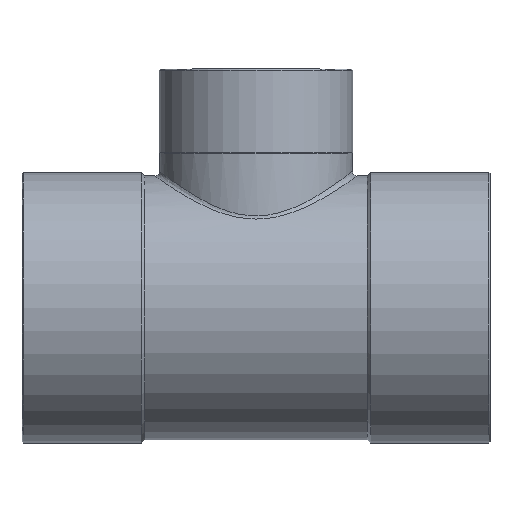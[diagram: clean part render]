
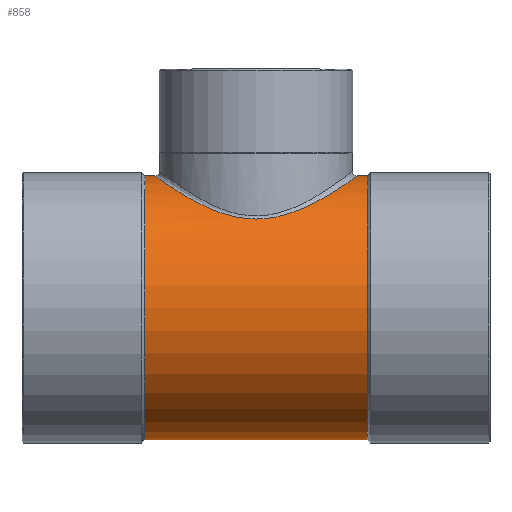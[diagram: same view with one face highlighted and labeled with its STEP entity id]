
A CAD part, top view. The second image highlights one B-rep face of the part: STEP entity #858.
In plain terms, the highlighted cylindrical face has radius 55.25 mm (diameter 110.5 mm), a partial arc.
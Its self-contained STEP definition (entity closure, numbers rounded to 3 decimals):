
#133=CARTESIAN_POINT('',(46.614,55.25,0.0));
#134=VERTEX_POINT('',#133);
#143=CARTESIAN_POINT('',(46.614,-55.25,0.));
#144=VERTEX_POINT('',#143);
#145=CARTESIAN_POINT('',(46.614,0.0,0.0));
#146=DIRECTION('',(1.0,0.0,0.0));
#147=DIRECTION('',(0.0,1.0,0.0));
#148=AXIS2_PLACEMENT_3D('',#145,#146,#147);
#149=CIRCLE('',#148,55.25);
#150=EDGE_CURVE('',#134,#144,#149,.T.);
#177=CARTESIAN_POINT('',(-46.614,55.25,0.0));
#178=VERTEX_POINT('',#177);
#194=CARTESIAN_POINT('',(-46.614,-55.25,0.));
#195=VERTEX_POINT('',#194);
#202=CARTESIAN_POINT('',(-46.614,0.0,0.0));
#203=DIRECTION('',(1.0,0.0,0.0));
#204=DIRECTION('',(0.0,1.0,0.0));
#205=AXIS2_PLACEMENT_3D('',#202,#203,#204);
#206=CIRCLE('',#205,55.25);
#207=EDGE_CURVE('',#178,#195,#206,.T.);
#808=CARTESIAN_POINT('',(23.307,0.0,0.0));
#809=DIRECTION('',(1.0,0.0,0.0));
#810=DIRECTION('',(0.0,1.0,0.0));
#811=AXIS2_PLACEMENT_3D('',#808,#809,#810);
#812=CYLINDRICAL_SURFACE('',#811,55.25);
#813=CARTESIAN_POINT('',(-42.4,55.25,0.));
#814=VERTEX_POINT('',#813);
#815=CARTESIAN_POINT('',(-46.614,55.25,0.0));
#816=DIRECTION('',(1.0,0.0,0.0));
#817=VECTOR('',#816,4.214);
#818=LINE('',#815,#817);
#819=EDGE_CURVE('',#178,#814,#818,.T.);
#820=ORIENTED_EDGE('',*,*,#819,.F.);
#821=ORIENTED_EDGE('',*,*,#207,.T.);
#822=CARTESIAN_POINT('',(46.614,-55.25,0.));
#823=DIRECTION('',(-1.0,0.0,0.0));
#824=VECTOR('',#823,93.229);
#825=LINE('',#822,#824);
#826=EDGE_CURVE('',#144,#195,#825,.T.);
#827=ORIENTED_EDGE('',*,*,#826,.F.);
#828=ORIENTED_EDGE('',*,*,#150,.F.);
#829=CARTESIAN_POINT('',(42.4,55.25,0.));
#830=VERTEX_POINT('',#829);
#831=CARTESIAN_POINT('',(42.4,55.25,0.));
#832=DIRECTION('',(1.0,0.0,0.0));
#833=VECTOR('',#832,4.214);
#834=LINE('',#831,#833);
#835=EDGE_CURVE('',#830,#134,#834,.T.);
#836=ORIENTED_EDGE('',*,*,#835,.F.);
#837=CARTESIAN_POINT('',(-42.4,55.25,0.));
#838=CARTESIAN_POINT('',(-42.4,55.25,2.027));
#839=CARTESIAN_POINT('',(-42.241,55.136,4.075));
#840=CARTESIAN_POINT('',(-40.658,54.011,14.245));
#841=CARTESIAN_POINT('',(-36.816,51.232,21.702));
#842=CARTESIAN_POINT('',(-27.653,45.631,31.506));
#843=CARTESIAN_POINT('',(-23.05,43.035,34.793));
#844=CARTESIAN_POINT('',(-13.766,39.27,38.94));
#845=CARTESIAN_POINT('',(-9.268,37.919,40.19));
#846=CARTESIAN_POINT('',(0.149,36.849,41.173));
#847=CARTESIAN_POINT('',(5.02,37.198,40.878));
#848=CARTESIAN_POINT('',(19.105,40.474,37.735));
#849=CARTESIAN_POINT('',(27.158,45.242,32.682));
#850=CARTESIAN_POINT('',(38.751,52.526,18.813));
#851=CARTESIAN_POINT('',(42.4,55.25,9.522));
#852=CARTESIAN_POINT('',(42.4,55.25,0.));
#853=B_SPLINE_CURVE_WITH_KNOTS('',3,(#837,#838,#839,#840,#841,#842,#843,#844,#845,#846,#847,#848,#849,#850,#851,#852),.UNSPECIFIED.,.F.,.U.,(4,2,2,2,2,2,2,4),(6.414,6.998,9.379,11.09,12.41,13.73,16.511,19.247),.UNSPECIFIED.);
#854=EDGE_CURVE('',#814,#830,#853,.T.);
#855=ORIENTED_EDGE('',*,*,#854,.F.);
#856=EDGE_LOOP('',(#820,#821,#827,#828,#836,#855));
#857=FACE_OUTER_BOUND('',#856,.T.);
#858=ADVANCED_FACE('',(#857),#812,.T.);
